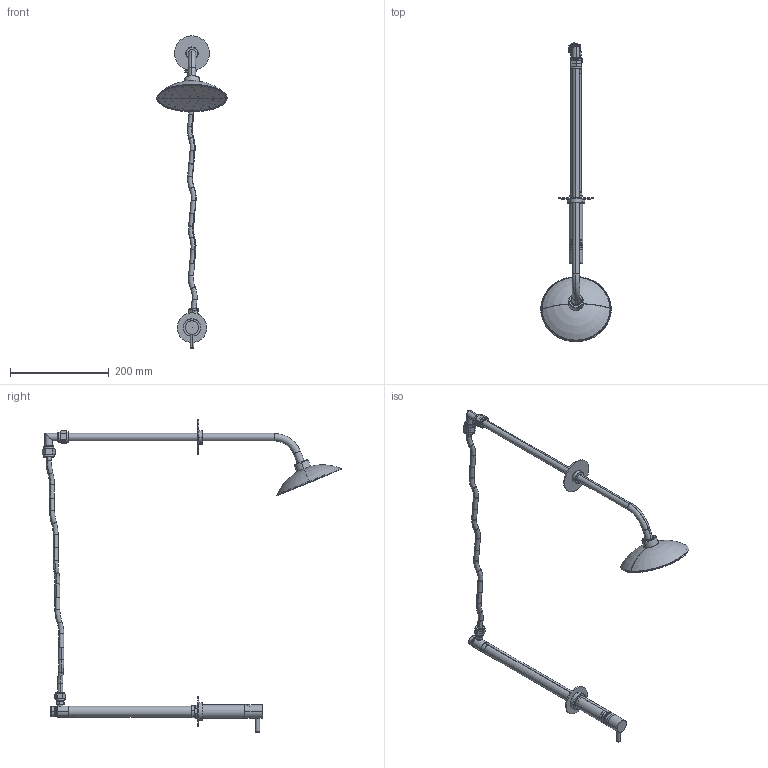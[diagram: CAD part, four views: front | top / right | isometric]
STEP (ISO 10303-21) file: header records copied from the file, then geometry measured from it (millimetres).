
FILE_DESCRIPTION (( 'STEP AP214' ), '1' );
FILE_NAME ('5060 EQI indbygget koldtvandsbruser.STEP', '2023-01-05T11:26:11', ( '' ), ( '' ), 'SwSTEP 2.0', 'SolidWorks 2022', '' );
FILE_SCHEMA (( 'AUTOMOTIVE_DESIGN' ));
Length unit declared in the file: millimetre
Products named in the file (51): 687 - 3.8  x 1.8 RG.STEP; U 2010-23 Håndtag; 5060 EQI indbygget koldtvandsbruser; 375 - Vinkel 15x15; U 2010-17 Loddestuds; U 2010-1 Loddefitting; U 5065-3 Låsering; Ø22x1x260 Kobberrør; U 5065-4 Brusestang svejsesamling; U 5060-2 Rosettesamling; U 2015-7 Ventilhus; Slange Ø10x100; U 4080-9 Skal til bruserhovede.STEP; U 5065-7 Svejsetegning af vægplade; U 2014-4 Ventil; U 2010-11 Spindelsamling; U 2010-7 Låsering; 6x2 O-ring shore70; U 2010-19 Styrestift; U 5065-12 Vinkelsamling Ø15 til Ø10; 6x2 O-ring shore90; U 2010-2 Spindelhus; U 5065-1 Brusestang; Ø8x1x200 Kobberrør; 18x2 O-ring; U 2016-11 Indvendig loddesamling; U 5065-2 Vægplade for brusestang; U 5092-4 Gevindstykke; U 5060-1 Rosetteplade; 82712 Bonfix Knækfitting; U 2010-21 Håndtag; U 2017-6 Overrør; U 2010-3-1 Spindel; 536 - Ø15 Kompressionsring; U 2015-12 Pibesamling til tappehane; 476 - Omløber 15 M20; U 5070-11 Samling af bruserhovede.STEP; 307 - Brystnippel Ø10 1.8 RG; U 4080-11 Bruserhovede bund.STEP; Pinolskrue M6x6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
Assembly tree (58 placements, depth 5):
  5060 EQI indbygget koldtvandsbruser
    U 5060-2 Rosettesamling
      U 5060-1 Rosetteplade
      U 2010-7 Låsering
    U 5065-7 Svejsetegning af vægplade
      U 5065-2 Vægplade for brusestang
      U 5065-3 Låsering
    U 5065-4 Brusestang svejsesamling
      U 5065-1 Brusestang
      U 5092-4 Gevindstykke
    U 2017-6 Overrør
    U 2010-11 Spindelsamling
      U 2010-19 Styrestift
      U 2010-2 Spindelhus
      U 2010-3-1 Spindel
      17,1x1,6 O-ring
      12x2 O-ring
      18x2 O-ring
      20x2 O-ring
    U 2010-23 Håndtag
      U 2010-9 Greb
      U 2010-21 Håndtag
      Pinolskrue M6x6
    U 2015-12 Pibesamling til tappehane
      U 2015-7 Ventilhus
      307 - Brystnippel Ø10 1.8 RG
        307 - Brystnippel Ø10 1.8 RG.STEP
          687 - 3.8  x 1.8 RG.STEP
          577 - Oml_ber 3.8 _10.STEP
          Messing b_sning _10.STEP
      U 2010-1 Loddefitting
      Ø22x1x260 Kobberrør
      20x2 O-ring
    U 2016-11 Indvendig loddesamling
      U 2014-4 Ventil
      U 2010-17 Loddestuds
      U 2010-24 Stift
      Ø8x1x200 Kobberrør
      6x2 O-ring shore90
      6x2 O-ring shore70  x2
    U 5070-11 Samling af bruserhovede
      U 5070-11 Samling af bruserhovede.STEP
        U 4080-9 Skal til bruserhovede.STEP
        U 4080-11 Bruserhovede bund.STEP
        U 4080-10 Topstykke til bruserhovede.STEP
    U 5065-12 Vinkelsamling Ø15 til Ø10
      375 - Vinkel 15x15
      82712 Bonfix Knækfitting
      476 - Omløber 15 M20  x2
      536 - Ø15 Kompressionsring
    Slange Ø10x100  x5
    Pinolskrue M6x5  x2
Bounding box: 142.57 x 605.34 x 631.04 mm (x, y, z)
Volume: 229152.5 mm3; surface area: 267994 mm2
Topology: 46 solids, 46 shells, 907 faces, 2021 edges, 1231 vertices
Faces by surface type: cylinder 455, plane 192, cone 157, torus 98, bspline 5
Entity records: 28375 total; most frequent: CARTESIAN_POINT 8113, DIRECTION 4065, ORIENTED_EDGE 3512, EDGE_CURVE 1756, AXIS2_PLACEMENT_3D 1718, VERTEX_POINT 1081, EDGE_LOOP 995, CIRCLE 865
